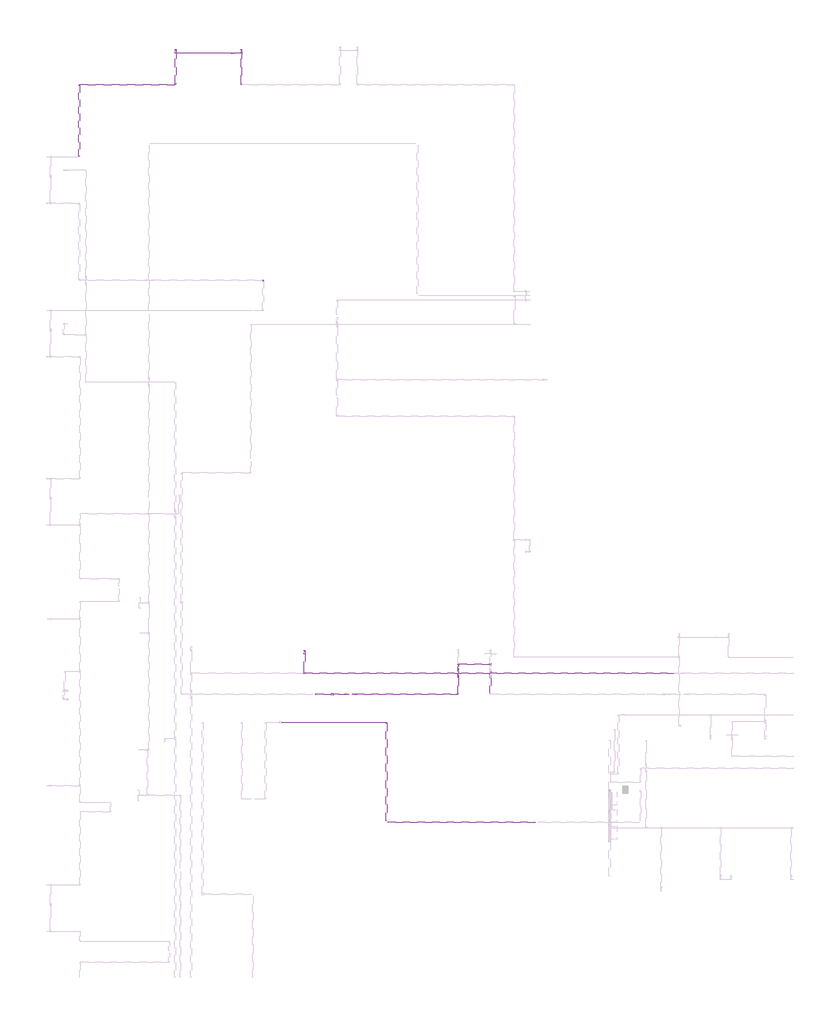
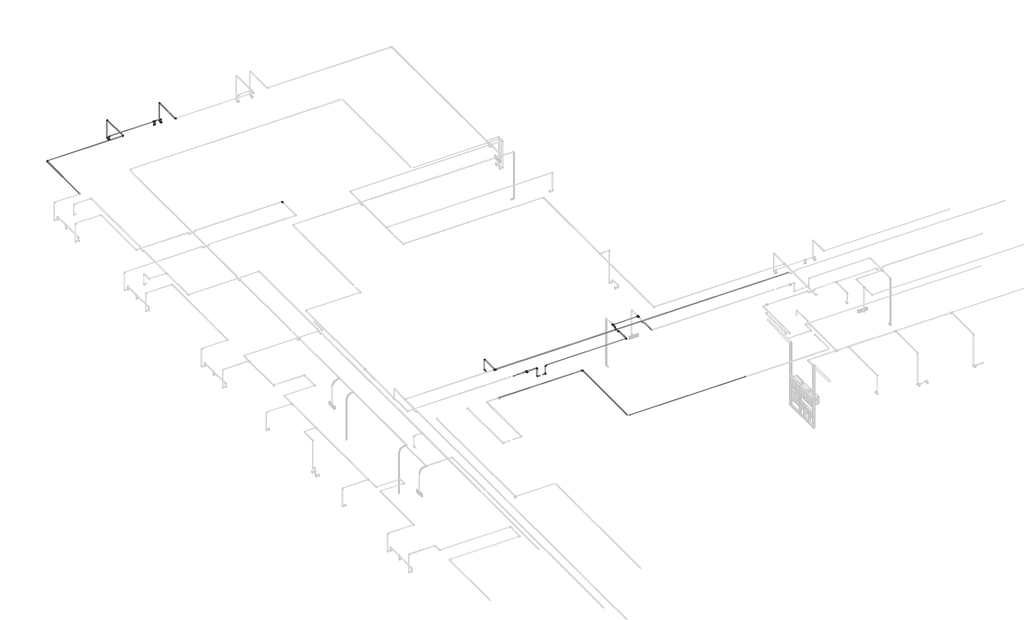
# One storey, part 18 of 40: 36 cable carrier segments, 26 cable carrier fittings, 3 electric appliances, 1 alarm.
"""IFC4 building model written with IfcOpenShell, lengths in millimetres."""

from ifc_helpers import new_model, si_unit, point, frame, frame_2d, origin, place, context, project, spatial, circle_curve, trimmed, segment, composite_curve, outline, extrude, transform, mapped, element, save
from components import alarm_a2247946, cable_carrier_fitting_69f1a801, cable_carrier_fitting_8122f9af, cable_carrier_fitting_8fd13dfc, electric_appliance_5961a143

model = new_model("IFC4")

# Units and contexts
model_context = context("Model", 3, world=origin())
ifc_project = project(units=[si_unit("LENGTHUNIT", "METRE", prefix="MILLI")], contexts=[model_context])

# Site, building, storey
site = spatial("IfcSite", under=ifc_project)
building = spatial("IfcBuilding", under=site)
storey = spatial("IfcBuildingStorey", under=building, Name="1 этаж", Elevation=0.0)

# Alarm
placement = place(None, origin())
alarm_shape = alarm_a2247946(model_context)
element("IfcAlarm", 1, ObjectType="RBZ_ИзоляторШлейфа_Рубеж_ИЗ-1_прот.R3(плоскость) : ИЗ-1 прот.R3", at=placement, inside=storey, context=model_context, shape_type="MappedRepresentation", body=[
    mapped(alarm_shape, transform((-30657.5194045, 5139.6370105, 3200.75), x_axis=(1.0, 0.0, 0.0), y_axis=(0.0, 1.0, 0.0), z_axis=(0.0, 0.0, 1.0))),
])

# Cable carrier fittings
cable_carrier_fitting_shape = cable_carrier_fitting_69f1a801(model_context)
element("IfcCableCarrierFitting", 2, ObjectType="ADSK_Поворот_Минимальный размер : Неспецифицируемый", at=placement, inside=storey, context=model_context, shape_type="MappedRepresentation", body=[
    mapped(cable_carrier_fitting_shape, transform((-29192.3240102, 4379.6370103, 3187.0078931), x_axis=(0.0, 0.9999999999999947, 1.0306994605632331e-07), y_axis=(-0.9999999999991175, 0.0, -1.3286059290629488e-06), z_axis=(-1.3286059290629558e-06, -1.0306994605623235e-07, 0.9999999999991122))),
])
element("IfcCableCarrierFitting", 3, ObjectType="ADSK_Поворот_Минимальный размер : Неспецифицируемый", at=placement, inside=storey, context=model_context, shape_type="MappedRepresentation", body=[
    mapped(cable_carrier_fitting_shape, transform((-30301.3326112, 5139.5658748, 2891.5753772), x_axis=(-1.0, 0.0, 0.0), y_axis=(0.0, 0.0, 1.0), z_axis=(0.0, 1.0, 0.0))),
])
element("IfcCableCarrierFitting", 4, ObjectType="ADSK_Поворот_Минимальный размер : Неспецифицируемый", at=placement, inside=storey, context=model_context, shape_type="MappedRepresentation", body=[
    mapped(cable_carrier_fitting_shape, transform((-30301.3326112, 5139.5658748, 3190.0), x_axis=(0.0, 0.0, 1.0), y_axis=(-0.9999999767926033, 0.00021544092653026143, 0.0), z_axis=(-0.00021544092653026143, -0.9999999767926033, 0.0))),
])
element("IfcCableCarrierFitting", 5, ObjectType="ADSK_Поворот_Минимальный размер : Неспецифицируемый", at=placement, inside=storey, context=model_context, shape_type="MappedRepresentation", body=[
    mapped(cable_carrier_fitting_shape, transform((-30013.933, 5139.5658748, 2891.5753772), x_axis=(1.0, 0.0, 0.0), y_axis=(0.0, 0.0, 1.0), z_axis=(0.0, -1.0, 0.0))),
])
element("IfcCableCarrierFitting", 6, ObjectType="ADSK_Поворот_Минимальный размер : Неспецифицируемый", at=placement, inside=storey, context=model_context, shape_type="MappedRepresentation", body=[
    mapped(cable_carrier_fitting_shape, transform((-30013.933, 5139.5658748, 3190.0), x_axis=(0.0, 0.0, 1.0), y_axis=(1.0, 0.0, 0.0), z_axis=(0.0, 1.0, 0.0))),
])
element("IfcCableCarrierFitting", 7, ObjectType="ADSK_Поворот_Минимальный размер : Неспецифицируемый", at=placement, inside=storey, context=model_context, shape_type="MappedRepresentation", body=[
    mapped(cable_carrier_fitting_shape, transform((-33122.3240021, 22488.6370105, 2650.0), x_axis=(0.0, 0.0, 1.0), y_axis=(-1.0, 0.0, 0.0), z_axis=(0.0, -1.0, 0.0))),
])
element("IfcCableCarrierFitting", 8, ObjectType="ADSK_Поворот_Минимальный размер : Неспецифицируемый", at=placement, inside=storey, context=model_context, shape_type="MappedRepresentation", body=[
    mapped(cable_carrier_fitting_shape, transform((-34902.3240021, 22488.6370105, 2650.0), x_axis=(0.0, 0.0, 1.0), y_axis=(1.0, 0.0, 0.0), z_axis=(0.0, 1.0, 0.0))),
])
element("IfcCableCarrierFitting", 9, ObjectType="ADSK_Поворот_Минимальный размер : Неспецифицируемый", at=placement, inside=storey, context=model_context, shape_type="MappedRepresentation", body=[
    mapped(cable_carrier_fitting_shape, transform((-34902.3240021, 22588.8368161, 2534.0911237), x_axis=(0.0, 1.0, 0.0), y_axis=(0.0, 0.0, 1.0), z_axis=(1.0, 0.0, 0.0))),
])
element("IfcCableCarrierFitting", 10, ObjectType="ADSK_Поворот_Минимальный размер : Неспецифицируемый", at=placement, inside=storey, context=model_context, shape_type="MappedRepresentation", body=[
    mapped(cable_carrier_fitting_shape, transform((-33122.3240021, 22588.8368161, 2534.0911237), x_axis=(0.0, 1.0, 0.0), y_axis=(0.0, 0.0, 1.0), z_axis=(1.0, 0.0, 0.0))),
])
element("IfcCableCarrierFitting", 11, ObjectType="ADSK_Поворот_Минимальный размер : Неспецифицируемый", at=placement, inside=storey, context=model_context, shape_type="MappedRepresentation", body=[
    mapped(cable_carrier_fitting_shape, transform((-37510.3240021, 21634.6370105, 3187.0), x_axis=(-1.0, 0.0, 0.0), y_axis=(0.0, -1.0, 0.0), z_axis=(0.0, 0.0, 1.0))),
])
element("IfcCableCarrierFitting", 12, ObjectType="ADSK_Поворот_Минимальный размер : Неспецифицируемый", at=placement, inside=storey, context=model_context, shape_type="MappedRepresentation", body=[
    mapped(cable_carrier_fitting_shape, transform((-34902.3240021, 21634.6370105, 3187.0), x_axis=(1.0, 0.0, 0.0), y_axis=(0.0, 1.0, 0.0), z_axis=(0.0, 0.0, 1.0))),
])
element("IfcCableCarrierFitting", 13, ObjectType="ADSK_Поворот_Минимальный размер : Неспецифицируемый", at=placement, inside=storey, context=model_context, shape_type="MappedRepresentation", body=[
    mapped(cable_carrier_fitting_shape, transform((-34902.3240021, 22588.8368161, 3187.0), x_axis=(0.0, 0.0, 1.0), y_axis=(0.0, -1.0, 0.0), z_axis=(1.0, 0.0, 0.0))),
])
element("IfcCableCarrierFitting", 14, ObjectType="ADSK_Поворот_Минимальный размер : Неспецифицируемый", at=placement, inside=storey, context=model_context, shape_type="MappedRepresentation", body=[
    mapped(cable_carrier_fitting_shape, transform((-33122.3240021, 21634.6370105, 3187.0), x_axis=(0.0, -1.0, 0.0), y_axis=(1.0, 0.0, 0.0), z_axis=(0.0, 0.0, 1.0))),
])
element("IfcCableCarrierFitting", 15, ObjectType="ADSK_Поворот_Минимальный размер : Неспецифицируемый", at=placement, inside=storey, context=model_context, shape_type="MappedRepresentation", body=[
    mapped(cable_carrier_fitting_shape, transform((-33122.3240021, 22588.8368161, 3187.0), x_axis=(0.0, 0.0, 1.0), y_axis=(0.0, -1.0, 0.0), z_axis=(1.0, 0.0, 0.0))),
])
element("IfcCableCarrierFitting", 16, ObjectType="ADSK_Поворот_Минимальный размер : Неспецифицируемый", at=placement, inside=storey, context=model_context, shape_type="MappedRepresentation", body=[
    mapped(cable_carrier_fitting_shape, transform((-31412.3240021, 6321.8368161, 2797.4861504), x_axis=(0.0, 1.0, 0.0), y_axis=(0.0, 0.0, 1.0), z_axis=(1.0, 0.0, 0.0))),
])
element("IfcCableCarrierFitting", 17, ObjectType="ADSK_Поворот_Минимальный размер : Неспецифицируемый", at=placement, inside=storey, context=model_context, shape_type="MappedRepresentation", body=[
    mapped(cable_carrier_fitting_shape, transform((-31412.3240021, 6321.8368161, 3180.0), x_axis=(0.0, 0.0, 1.0), y_axis=(0.0, -1.0, 0.0), z_axis=(1.0, 0.0, 0.0))),
])
element("IfcCableCarrierFitting", 18, ObjectType="ADSK_Поворот_Минимальный размер : Неспецифицируемый", at=placement, inside=storey, context=model_context, shape_type="MappedRepresentation", body=[
    mapped(cable_carrier_fitting_shape, transform((-27249.8240021, 5139.5658748, 3190.0), x_axis=(1.0, 0.0, 0.0), y_axis=(0.0, 1.0, 0.0), z_axis=(0.0, 0.0, 1.0))),
])
element("IfcCableCarrierFitting", 19, ObjectType="ADSK_Поворот_Минимальный размер : Неспецифицируемый", at=placement, inside=storey, context=model_context, shape_type="MappedRepresentation", body=[
    mapped(cable_carrier_fitting_shape, transform((-32530.276993, 16343.9228593, 3187.0), x_axis=(0.0, 1.0, 0.0), y_axis=(-1.0, 0.0, 0.0), z_axis=(0.0, 0.0, 1.0))),
])
cable_carrier_fitting_2_shape = cable_carrier_fitting_8122f9af(model_context)
element("IfcCableCarrierFitting", 20, ObjectType="ADSK_Поворот_Минимальный размер : Неспецифицируемый", at=placement, inside=storey, context=model_context, shape_type="MappedRepresentation", body=[
    mapped(cable_carrier_fitting_2_shape, transform((-27249.8240021, 5643.0647393, 3140.0), x_axis=(0.0, 0.7071067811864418, -0.7071067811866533), y_axis=(0.0, 0.7071067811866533, 0.7071067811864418), z_axis=(1.0, 0.0, 0.0))),
])
element("IfcCableCarrierFitting", 21, ObjectType="ADSK_Поворот_Минимальный размер : Неспецифицируемый", at=placement, inside=storey, context=model_context, shape_type="MappedRepresentation", body=[
    mapped(cable_carrier_fitting_2_shape, transform((-27249.8240021, 5776.2092818, 3140.0), x_axis=(0.0, 1.0, 0.0), y_axis=(0.0, 0.0, 1.0), z_axis=(1.0, 0.0, 0.0))),
])
element("IfcCableCarrierFitting", 22, ObjectType="ADSK_Поворот_Минимальный размер : Неспецифицируемый", at=placement, inside=storey, context=model_context, shape_type="MappedRepresentation", body=[
    mapped(cable_carrier_fitting_2_shape, transform((-27249.8240021, 5826.2092818, 3190.0), x_axis=(0.0, 0.7071067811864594, 0.7071067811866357), y_axis=(0.0, 0.7071067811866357, -0.7071067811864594), z_axis=(-1.0, 0.0, 0.0))),
])
element("IfcCableCarrierFitting", 23, ObjectType="ADSK_Поворот_Минимальный размер : Неспецифицируемый", at=placement, inside=storey, context=model_context, shape_type="MappedRepresentation", body=[
    mapped(cable_carrier_fitting_2_shape, transform((-27249.8240021, 5593.0647393, 3190.0), x_axis=(0.0, -0.7071067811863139, 0.7071067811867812), y_axis=(0.0, -0.7071067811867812, -0.7071067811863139), z_axis=(1.0, 0.0, 0.0))),
])
cable_carrier_fitting_3_shape = cable_carrier_fitting_8fd13dfc(model_context)
element("IfcCableCarrierFitting", 24, ObjectType="ADSK_Тройник : ПВХ", at=placement, inside=storey, context=model_context, shape_type="MappedRepresentation", body=[
    mapped(cable_carrier_fitting_3_shape, transform((-27249.8240021, 5954.6907669, 3190.0), x_axis=(0.0, 1.0, 0.0), y_axis=(-1.0, 0.0, 0.0), z_axis=(0.0, 0.0, 1.0))),
])
element("IfcCableCarrierFitting", 25, ObjectType="ADSK_Тройник : ПВХ", at=placement, inside=storey, context=model_context, shape_type="MappedRepresentation", body=[
    mapped(cable_carrier_fitting_3_shape, transform((-26379.8240021, 5954.6907669, 3190.0), x_axis=(0.0, -1.0, 0.0), y_axis=(1.0, 0.0, 0.0), z_axis=(0.0, 0.0, 1.0))),
])
element("IfcCableCarrierFitting", 26, ObjectType="ADSK_Тройник : ПВХ", at=placement, inside=storey, context=model_context, shape_type="MappedRepresentation", body=[
    mapped(cable_carrier_fitting_3_shape, transform((-33352.3240021, 22488.6370105, 2650.0), x_axis=(1.0, 0.0, 0.0), y_axis=(0.0, 0.0, 1.0), z_axis=(0.0, -1.0, 0.0))),
])
element("IfcCableCarrierFitting", 27, ObjectType="ADSK_Тройник : ПВХ", at=placement, inside=storey, context=model_context, shape_type="MappedRepresentation", body=[
    mapped(cable_carrier_fitting_3_shape, transform((-31412.3240021, 5709.6370105, 3180.0), x_axis=(-1.0, 0.0, 0.0), y_axis=(0.0, -1.0, 0.0), z_axis=(0.0, 0.0, 1.0))),
])

# Cable carrier segments
element("IfcCableCarrierSegment", 28, ObjectType="Гофрированная труба", at=placement, inside=storey, context=model_context, shape_type="SweptSolid", body=[
    extrude(outline(composite_curve([segment(trimmed(circle_curve(frame_2d((1674.6370105, 3187.007891)), 10.0), [point((1664.6370105, 3187.007891))], [point((1674.6370105, 3197.007891))], False, "CARTESIAN"), True, "CONTINUOUS"), segment(trimmed(circle_curve(frame_2d((1674.6370105, 3187.007891)), 10.0), [point((1674.6370105, 3197.007891))], [point((1684.6370105, 3187.007891))], False, "CARTESIAN"), True, "CONTINUOUS"), segment(trimmed(circle_curve(frame_2d((1674.6370105, 3187.007891)), 10.0), [point((1684.6370105, 3187.007891))], [point((1674.6370105, 3177.007891))], False, "CARTESIAN"), True, "CONTINUOUS"), segment(trimmed(circle_curve(frame_2d((1674.6370105, 3187.007891)), 10.0), [point((1674.6370105, 3177.007891))], [point((1664.6370105, 3187.007891))], False, "CARTESIAN"), True, "CONTINUOUS")], self_intersect=False)), frame((-29145.8240102, 0.0, 0.0), z_axis=(1.0, 0.0, 0.0), x_axis=(0.0, 1.0, 0.0)), (0.0, 0.0, 1.0), 3972.0000081),
])
element("IfcCableCarrierSegment", 29, ObjectType="Гофрированная труба", at=placement, inside=storey, context=model_context, shape_type="SweptSolid", body=[
    extrude(outline(composite_curve([segment(trimmed(circle_curve(frame_2d((3187.007891, -29192.3240102)), 10.0), [point((3187.0078777, -29202.3240102))], [point((3177.007891, -29192.3239969))], False, "CARTESIAN"), True, "CONTINUOUS"), segment(trimmed(circle_curve(frame_2d((3187.007891, -29192.3240102)), 10.0), [point((3177.007891, -29192.3239969))], [point((3187.0079043, -29182.3240102))], False, "CARTESIAN"), True, "CONTINUOUS"), segment(trimmed(circle_curve(frame_2d((3187.007891, -29192.3240102)), 10.0), [point((3187.0079043, -29182.3240102))], [point((3197.007891, -29192.3240235))], False, "CARTESIAN"), True, "CONTINUOUS"), segment(trimmed(circle_curve(frame_2d((3187.007891, -29192.3240102)), 10.0), [point((3197.007891, -29192.3240235))], [point((3187.0078777, -29202.3240102))], False, "CARTESIAN"), True, "CONTINUOUS")], self_intersect=False)), frame((0.0, 1721.1370105, 0.0), z_axis=(0.0, 1.0, 0.0), x_axis=(0.0, 0.0, 1.0)), (0.0, 0.0, 1.0), 2637.4999998),
])
element("IfcCableCarrierSegment", 30, ObjectType="Гофрированная труба", at=placement, inside=storey, context=model_context, shape_type="SweptSolid", body=[
    extrude(outline(composite_curve([segment(trimmed(circle_curve(frame_2d((0.0, -10.0)), 10.0), [point((-10.0, -10.0))], [point((0.0, 0.0))], False, "CARTESIAN"), True, "CONTINUOUS"), segment(trimmed(circle_curve(frame_2d((0.0, -10.0)), 10.0), [point((0.0, 0.0))], [point((10.0, -10.0))], False, "CARTESIAN"), True, "CONTINUOUS"), segment(trimmed(circle_curve(frame_2d((0.0, -10.0)), 10.0), [point((10.0, -10.0))], [point((0.0, -20.0))], False, "CARTESIAN"), True, "CONTINUOUS"), segment(trimmed(circle_curve(frame_2d((0.0, -10.0)), 10.0), [point((0.0, -20.0))], [point((-10.0, -10.0))], False, "CARTESIAN"), True, "CONTINUOUS")], self_intersect=False)), frame((-32036.3239888, 4379.6370103, 3177.0041146), z_axis=(0.9999999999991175, 0.0, 1.3286058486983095e-06), x_axis=(0.0, -1.0, 0.0)), (0.0, 0.0, 1.0), 2822.9999919),
])
element("IfcCableCarrierSegment", 31, ObjectType="Гофрированная труба", at=placement, inside=storey, context=model_context, shape_type="SweptSolid", body=[
    extrude(outline(composite_curve([segment(trimmed(circle_curve(frame_2d((5139.6370105, 3190.0)), 10.0), [point((5149.6370105, 3190.0))], [point((5139.6370105, 3180.0))], False, "CARTESIAN"), True, "CONTINUOUS"), segment(trimmed(circle_curve(frame_2d((5139.6370105, 3190.0)), 10.0), [point((5139.6370105, 3180.0))], [point((5129.6370105, 3190.0))], False, "CARTESIAN"), True, "CONTINUOUS"), segment(trimmed(circle_curve(frame_2d((5139.6370105, 3190.0)), 10.0), [point((5129.6370105, 3190.0))], [point((5139.6370105, 3200.0))], False, "CARTESIAN"), True, "CONTINUOUS"), segment(trimmed(circle_curve(frame_2d((5139.6370105, 3190.0)), 10.0), [point((5139.6370105, 3200.0))], [point((5149.6370105, 3190.0))], False, "CARTESIAN"), True, "CONTINUOUS")], self_intersect=False)), frame((-31110.8240021, 0.0, 0.0), z_axis=(1.0, 0.0, 0.0), x_axis=(0.0, 1.0, 0.0)), (0.0, 0.0, 1.0), 427.3045976),
])
element("IfcCableCarrierSegment", 32, ObjectType="Гофрированная труба", at=placement, inside=storey, context=model_context, shape_type="SweptSolid", body=[
    extrude(outline(composite_curve([segment(trimmed(circle_curve(frame_2d((0.0, 10.0)), 10.0), [point((-10.0, 10.0))], [point((0.0, 20.0))], False, "CARTESIAN"), True, "CONTINUOUS"), segment(trimmed(circle_curve(frame_2d((0.0, 10.0)), 10.0), [point((0.0, 20.0))], [point((9.9999999, 10.0))], False, "CARTESIAN"), True, "CONTINUOUS"), segment(trimmed(circle_curve(frame_2d((0.0, 10.0)), 10.0), [point((9.9999999, 10.0))], [point((0.0, 0.0))], False, "CARTESIAN"), True, "CONTINUOUS"), segment(trimmed(circle_curve(frame_2d((0.0, 10.0)), 10.0), [point((0.0, 0.0))], [point((-10.0, 10.0))], False, "CARTESIAN"), True, "CONTINUOUS")], self_intersect=False)), frame((-30322.3326108, 5139.570399, 3180.0), z_axis=(-0.9999999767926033, 0.0002154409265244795, 0.0), x_axis=(-0.0002154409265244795, -0.9999999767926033, 0.0)), (0.0, 0.0, 1.0), 309.1868009),
])
element("IfcCableCarrierSegment", 33, ObjectType="Гофрированная труба", at=placement, inside=storey, context=model_context, shape_type="SweptSolid", body=[
    extrude(outline(composite_curve([segment(trimmed(circle_curve(frame_2d((5139.5658748, 2891.5753772)), 10.0), [point((5149.5658748, 2891.5753772))], [point((5139.5658748, 2881.5753772))], False, "CARTESIAN"), True, "CONTINUOUS"), segment(trimmed(circle_curve(frame_2d((5139.5658748, 2891.5753772)), 10.0), [point((5139.5658748, 2881.5753772))], [point((5129.5658748, 2891.5753772))], False, "CARTESIAN"), True, "CONTINUOUS"), segment(trimmed(circle_curve(frame_2d((5139.5658748, 2891.5753772)), 10.0), [point((5129.5658748, 2891.5753772))], [point((5139.5658748, 2901.5753772))], False, "CARTESIAN"), True, "CONTINUOUS"), segment(trimmed(circle_curve(frame_2d((5139.5658748, 2891.5753772)), 10.0), [point((5139.5658748, 2901.5753772))], [point((5149.5658748, 2891.5753772))], False, "CARTESIAN"), True, "CONTINUOUS")], self_intersect=False)), frame((-30280.3326112, 0.0, 0.0), z_axis=(1.0, 0.0, 0.0), x_axis=(0.0, 1.0, 0.0)), (0.0, 0.0, 1.0), 76.1998056),
])
element("IfcCableCarrierSegment", 34, ObjectType="Гофрированная труба", at=placement, inside=storey, context=model_context, shape_type="SweptSolid", body=[
    extrude(outline(composite_curve([segment(trimmed(circle_curve(frame_2d((-30301.3326112, 5139.5658748)), 10.0), [point((-30311.3326112, 5139.5658748))], [point((-30301.3326112, 5149.5658748))], False, "CARTESIAN"), True, "CONTINUOUS"), segment(trimmed(circle_curve(frame_2d((-30301.3326112, 5139.5658748)), 10.0), [point((-30301.3326112, 5149.5658748))], [point((-30291.3326112, 5139.5658748))], False, "CARTESIAN"), True, "CONTINUOUS"), segment(trimmed(circle_curve(frame_2d((-30301.3326112, 5139.5658748)), 10.0), [point((-30291.3326112, 5139.5658748))], [point((-30301.3326112, 5129.5658748))], False, "CARTESIAN"), True, "CONTINUOUS"), segment(trimmed(circle_curve(frame_2d((-30301.3326112, 5139.5658748)), 10.0), [point((-30301.3326112, 5129.5658748))], [point((-30311.3326112, 5139.5658748))], False, "CARTESIAN"), True, "CONTINUOUS")], self_intersect=False)), frame((0.0, 0.0, 2912.5753772), z_axis=(0.0, 0.0, 1.0), x_axis=(1.0, 0.0, 0.0)), (0.0, 0.0, 1.0), 256.4246228),
])
element("IfcCableCarrierSegment", 35, ObjectType="Гофрированная труба", at=placement, inside=storey, context=model_context, shape_type="SweptSolid", body=[
    extrude(outline(composite_curve([segment(trimmed(circle_curve(frame_2d((5139.5658748, 2891.5753772)), 10.0), [point((5129.5658748, 2891.5753772))], [point((5139.5658748, 2901.5753772))], False, "CARTESIAN"), True, "CONTINUOUS"), segment(trimmed(circle_curve(frame_2d((5139.5658748, 2891.5753772)), 10.0), [point((5139.5658748, 2901.5753772))], [point((5149.5658748, 2891.5753772))], False, "CARTESIAN"), True, "CONTINUOUS"), segment(trimmed(circle_curve(frame_2d((5139.5658748, 2891.5753772)), 10.0), [point((5149.5658748, 2891.5753772))], [point((5139.5658748, 2881.5753772))], False, "CARTESIAN"), True, "CONTINUOUS"), segment(trimmed(circle_curve(frame_2d((5139.5658748, 2891.5753772)), 10.0), [point((5139.5658748, 2881.5753772))], [point((5129.5658748, 2891.5753772))], False, "CARTESIAN"), True, "CONTINUOUS")], self_intersect=False)), frame((-30111.1328056, 0.0, 0.0), z_axis=(1.0, 0.0, 0.0), x_axis=(0.0, 1.0, 0.0)), (0.0, 0.0, 1.0), 76.1998056),
])
element("IfcCableCarrierSegment", 36, ObjectType="Гофрированная труба", at=placement, inside=storey, context=model_context, shape_type="SweptSolid", body=[
    extrude(outline(composite_curve([segment(trimmed(circle_curve(frame_2d((-30013.933, 5139.5658748)), 10.0), [point((-30023.933, 5139.5658748))], [point((-30013.933, 5149.5658748))], False, "CARTESIAN"), True, "CONTINUOUS"), segment(trimmed(circle_curve(frame_2d((-30013.933, 5139.5658748)), 10.0), [point((-30013.933, 5149.5658748))], [point((-30003.933, 5139.5658748))], False, "CARTESIAN"), True, "CONTINUOUS"), segment(trimmed(circle_curve(frame_2d((-30013.933, 5139.5658748)), 10.0), [point((-30003.933, 5139.5658748))], [point((-30013.933, 5129.5658748))], False, "CARTESIAN"), True, "CONTINUOUS"), segment(trimmed(circle_curve(frame_2d((-30013.933, 5139.5658748)), 10.0), [point((-30013.933, 5129.5658748))], [point((-30023.933, 5139.5658748))], False, "CARTESIAN"), True, "CONTINUOUS")], self_intersect=False)), frame((0.0, 0.0, 2912.5753772), z_axis=(0.0, 0.0, 1.0), x_axis=(1.0, 0.0, 0.0)), (0.0, 0.0, 1.0), 256.4246228),
])
element("IfcCableCarrierSegment", 37, ObjectType="Гофрированная труба", at=placement, inside=storey, context=model_context, shape_type="SweptSolid", body=[
    extrude(outline(composite_curve([segment(trimmed(circle_curve(frame_2d((5139.5658748, 3190.0)), 10.0), [point((5129.5658748, 3190.0))], [point((5139.5658748, 3200.0))], False, "CARTESIAN"), True, "CONTINUOUS"), segment(trimmed(circle_curve(frame_2d((5139.5658748, 3190.0)), 10.0), [point((5139.5658748, 3200.0))], [point((5149.5658748, 3190.0))], False, "CARTESIAN"), True, "CONTINUOUS"), segment(trimmed(circle_curve(frame_2d((5139.5658748, 3190.0)), 10.0), [point((5149.5658748, 3190.0))], [point((5139.5658748, 3180.0))], False, "CARTESIAN"), True, "CONTINUOUS"), segment(trimmed(circle_curve(frame_2d((5139.5658748, 3190.0)), 10.0), [point((5139.5658748, 3180.0))], [point((5129.5658748, 3190.0))], False, "CARTESIAN"), True, "CONTINUOUS")], self_intersect=False)), frame((-29992.933, 0.0, 0.0), z_axis=(1.0, 0.0, 0.0), x_axis=(0.0, 1.0, 0.0)), (0.0, 0.0, 1.0), 2722.1089979),
])
element("IfcCableCarrierSegment", 38, ObjectType="Гофрированная труба", at=placement, inside=storey, context=model_context, shape_type="SweptSolid", body=[
    extrude(outline(composite_curve([segment(trimmed(circle_curve(frame_2d((5954.6907669, 3190.0)), 10.0), [point((5964.6907669, 3190.0))], [point((5954.6907669, 3180.0))], False, "CARTESIAN"), True, "CONTINUOUS"), segment(trimmed(circle_curve(frame_2d((5954.6907669, 3190.0)), 10.0), [point((5954.6907669, 3180.0))], [point((5944.6907669, 3190.0))], False, "CARTESIAN"), True, "CONTINUOUS"), segment(trimmed(circle_curve(frame_2d((5954.6907669, 3190.0)), 10.0), [point((5944.6907669, 3190.0))], [point((5954.6907669, 3200.0))], False, "CARTESIAN"), True, "CONTINUOUS"), segment(trimmed(circle_curve(frame_2d((5954.6907669, 3190.0)), 10.0), [point((5954.6907669, 3200.0))], [point((5964.6907669, 3190.0))], False, "CARTESIAN"), True, "CONTINUOUS")], self_intersect=False)), frame((-27219.8240021, 0.0, 0.0), z_axis=(1.0, 0.0, 0.0), x_axis=(0.0, 1.0, 0.0)), (0.0, 0.0, 1.0), 810.0),
])
element("IfcCableCarrierSegment", 39, ObjectType="Гофрированная труба", at=placement, inside=storey, context=model_context, shape_type="SweptSolid", body=[
    extrude(outline(composite_curve([segment(trimmed(circle_curve(frame_2d((3140.0, -27249.8240021)), 10.0), [point((3140.0, -27239.8240021))], [point((3150.0, -27249.8240021))], False, "CARTESIAN"), True, "CONTINUOUS"), segment(trimmed(circle_curve(frame_2d((3140.0, -27249.8240021)), 10.0), [point((3150.0, -27249.8240021))], [point((3140.0, -27259.8240021))], False, "CARTESIAN"), True, "CONTINUOUS"), segment(trimmed(circle_curve(frame_2d((3140.0, -27249.8240021)), 10.0), [point((3140.0, -27259.8240021))], [point((3130.0, -27249.8240021))], False, "CARTESIAN"), True, "CONTINUOUS"), segment(trimmed(circle_curve(frame_2d((3140.0, -27249.8240021)), 10.0), [point((3130.0, -27249.8240021))], [point((3140.0, -27239.8240021))], False, "CARTESIAN"), True, "CONTINUOUS")], self_intersect=False)), frame((0.0, 5652.3490105, 0.0), z_axis=(0.0, 1.0, 0.0), x_axis=(0.0, 0.0, 1.0)), (0.0, 0.0, 1.0), 114.576),
])
element("IfcCableCarrierSegment", 40, ObjectType="Гофрированная труба", at=placement, inside=storey, context=model_context, shape_type="SweptSolid", body=[
    extrude(outline(composite_curve([segment(trimmed(circle_curve(frame_2d((3140.0, -26379.8240021)), 10.0), [point((3140.0, -26369.8240021))], [point((3150.0, -26379.8240021))], False, "CARTESIAN"), True, "CONTINUOUS"), segment(trimmed(circle_curve(frame_2d((3140.0, -26379.8240021)), 10.0), [point((3150.0, -26379.8240021))], [point((3140.0, -26389.8240021))], False, "CARTESIAN"), True, "CONTINUOUS"), segment(trimmed(circle_curve(frame_2d((3140.0, -26379.8240021)), 10.0), [point((3140.0, -26389.8240021))], [point((3130.0, -26379.8240021))], False, "CARTESIAN"), True, "CONTINUOUS"), segment(trimmed(circle_curve(frame_2d((3140.0, -26379.8240021)), 10.0), [point((3130.0, -26379.8240021))], [point((3140.0, -26369.8240021))], False, "CARTESIAN"), True, "CONTINUOUS")], self_intersect=False)), frame((0.0, 5652.3490105, 0.0), z_axis=(0.0, 1.0, 0.0), x_axis=(0.0, 0.0, 1.0)), (0.0, 0.0, 1.0), 114.576),
])
element("IfcCableCarrierSegment", 41, ObjectType="Гофрированная труба", at=placement, inside=storey, context=model_context, shape_type="SweptSolid", body=[
    extrude(outline(composite_curve([segment(trimmed(circle_curve(frame_2d((-33352.3240021, 22488.6370105)), 10.0), [point((-33362.3240021, 22488.6370105))], [point((-33352.3240021, 22498.6370105))], False, "CARTESIAN"), True, "CONTINUOUS"), segment(trimmed(circle_curve(frame_2d((-33352.3240021, 22488.6370105)), 10.0), [point((-33352.3240021, 22498.6370105))], [point((-33342.3240021, 22488.6370105))], False, "CARTESIAN"), True, "CONTINUOUS"), segment(trimmed(circle_curve(frame_2d((-33352.3240021, 22488.6370105)), 10.0), [point((-33342.3240021, 22488.6370105))], [point((-33352.3240021, 22478.6370105))], False, "CARTESIAN"), True, "CONTINUOUS"), segment(trimmed(circle_curve(frame_2d((-33352.3240021, 22488.6370105)), 10.0), [point((-33352.3240021, 22478.6370105))], [point((-33362.3240021, 22488.6370105))], False, "CARTESIAN"), True, "CONTINUOUS")], self_intersect=False)), frame((0.0, 0.0, 2563.1207114), z_axis=(0.0, 0.0, 1.0), x_axis=(1.0, 0.0, 0.0)), (0.0, 0.0, 1.0), 56.8792886),
])
element("IfcCableCarrierSegment", 42, ObjectType="Гофрированная труба", at=placement, inside=storey, context=model_context, shape_type="SweptSolid", body=[
    extrude(outline(composite_curve([segment(trimmed(circle_curve(frame_2d((-34902.3240021, 22488.6370105)), 10.0), [point((-34912.3240021, 22488.6370105))], [point((-34902.3240021, 22498.6370105))], False, "CARTESIAN"), True, "CONTINUOUS"), segment(trimmed(circle_curve(frame_2d((-34902.3240021, 22488.6370105)), 10.0), [point((-34902.3240021, 22498.6370105))], [point((-34892.3240021, 22488.6370105))], False, "CARTESIAN"), True, "CONTINUOUS"), segment(trimmed(circle_curve(frame_2d((-34902.3240021, 22488.6370105)), 10.0), [point((-34892.3240021, 22488.6370105))], [point((-34902.3240021, 22478.6370105))], False, "CARTESIAN"), True, "CONTINUOUS"), segment(trimmed(circle_curve(frame_2d((-34902.3240021, 22488.6370105)), 10.0), [point((-34902.3240021, 22478.6370105))], [point((-34912.3240021, 22488.6370105))], False, "CARTESIAN"), True, "CONTINUOUS")], self_intersect=False)), frame((0.0, 0.0, 2563.1207114), z_axis=(0.0, 0.0, 1.0), x_axis=(1.0, 0.0, 0.0)), (0.0, 0.0, 1.0), 65.8792886),
])
element("IfcCableCarrierSegment", 43, ObjectType="Гофрированная труба", at=placement, inside=storey, context=model_context, shape_type="SweptSolid", body=[
    extrude(outline(composite_curve([segment(trimmed(circle_curve(frame_2d((22488.6370105, 2650.0)), 10.0), [point((22498.6370105, 2650.0))], [point((22488.6370105, 2640.0))], False, "CARTESIAN"), True, "CONTINUOUS"), segment(trimmed(circle_curve(frame_2d((22488.6370105, 2650.0)), 10.0), [point((22488.6370105, 2640.0))], [point((22478.6370105, 2650.0))], False, "CARTESIAN"), True, "CONTINUOUS"), segment(trimmed(circle_curve(frame_2d((22488.6370105, 2650.0)), 10.0), [point((22478.6370105, 2650.0))], [point((22488.6370105, 2660.0))], False, "CARTESIAN"), True, "CONTINUOUS"), segment(trimmed(circle_curve(frame_2d((22488.6370105, 2650.0)), 10.0), [point((22488.6370105, 2660.0))], [point((22498.6370105, 2650.0))], False, "CARTESIAN"), True, "CONTINUOUS")], self_intersect=False)), frame((-34881.3240021, 0.0, 0.0), z_axis=(1.0, 0.0, 0.0), x_axis=(0.0, 1.0, 0.0)), (0.0, 0.0, 1.0), 1499.0),
])
element("IfcCableCarrierSegment", 44, ObjectType="Гофрированная труба", at=placement, inside=storey, context=model_context, shape_type="SweptSolid", body=[
    extrude(outline(composite_curve([segment(trimmed(circle_curve(frame_2d((-33122.3240021, 22488.6370105)), 10.0), [point((-33132.3240021, 22488.6370105))], [point((-33122.3240021, 22498.6370105))], False, "CARTESIAN"), True, "CONTINUOUS"), segment(trimmed(circle_curve(frame_2d((-33122.3240021, 22488.6370105)), 10.0), [point((-33122.3240021, 22498.6370105))], [point((-33112.3240021, 22488.6370105))], False, "CARTESIAN"), True, "CONTINUOUS"), segment(trimmed(circle_curve(frame_2d((-33122.3240021, 22488.6370105)), 10.0), [point((-33112.3240021, 22488.6370105))], [point((-33122.3240021, 22478.6370105))], False, "CARTESIAN"), True, "CONTINUOUS"), segment(trimmed(circle_curve(frame_2d((-33122.3240021, 22488.6370105)), 10.0), [point((-33122.3240021, 22478.6370105))], [point((-33132.3240021, 22488.6370105))], False, "CARTESIAN"), True, "CONTINUOUS")], self_intersect=False)), frame((0.0, 0.0, 2563.1207114), z_axis=(0.0, 0.0, 1.0), x_axis=(1.0, 0.0, 0.0)), (0.0, 0.0, 1.0), 65.8792886),
])
element("IfcCableCarrierSegment", 45, ObjectType="Гофрированная труба", at=placement, inside=storey, context=model_context, shape_type="SweptSolid", body=[
    extrude(outline(composite_curve([segment(trimmed(circle_curve(frame_2d((22488.6370105, 2650.0)), 10.0), [point((22498.6370105, 2650.0))], [point((22488.6370105, 2640.0))], False, "CARTESIAN"), True, "CONTINUOUS"), segment(trimmed(circle_curve(frame_2d((22488.6370105, 2650.0)), 10.0), [point((22488.6370105, 2640.0))], [point((22478.6370105, 2650.0))], False, "CARTESIAN"), True, "CONTINUOUS"), segment(trimmed(circle_curve(frame_2d((22488.6370105, 2650.0)), 10.0), [point((22478.6370105, 2650.0))], [point((22488.6370105, 2660.0))], False, "CARTESIAN"), True, "CONTINUOUS"), segment(trimmed(circle_curve(frame_2d((22488.6370105, 2650.0)), 10.0), [point((22488.6370105, 2660.0))], [point((22498.6370105, 2650.0))], False, "CARTESIAN"), True, "CONTINUOUS")], self_intersect=False)), frame((-33322.3240021, 0.0, 0.0), z_axis=(1.0, 0.0, 0.0), x_axis=(0.0, 1.0, 0.0)), (0.0, 0.0, 1.0), 179.0),
])
element("IfcCableCarrierSegment", 46, ObjectType="Гофрированная труба", at=placement, inside=storey, context=model_context, shape_type="SweptSolid", body=[
    extrude(outline(composite_curve([segment(trimmed(circle_curve(frame_2d((3187.0, -34902.3240021)), 10.0), [point((3187.0, -34892.3240021))], [point((3197.0, -34902.3240021))], False, "CARTESIAN"), True, "CONTINUOUS"), segment(trimmed(circle_curve(frame_2d((3187.0, -34902.3240021)), 10.0), [point((3197.0, -34902.3240021))], [point((3187.0, -34912.3240021))], False, "CARTESIAN"), True, "CONTINUOUS"), segment(trimmed(circle_curve(frame_2d((3187.0, -34902.3240021)), 10.0), [point((3187.0, -34912.3240021))], [point((3177.0, -34902.3240021))], False, "CARTESIAN"), True, "CONTINUOUS"), segment(trimmed(circle_curve(frame_2d((3187.0, -34902.3240021)), 10.0), [point((3177.0, -34902.3240021))], [point((3187.0, -34892.3240021))], False, "CARTESIAN"), True, "CONTINUOUS")], self_intersect=False)), frame((0.0, 21655.6370105, 0.0), z_axis=(0.0, 1.0, 0.0), x_axis=(0.0, 0.0, 1.0)), (0.0, 0.0, 1.0), 912.1998056),
])
element("IfcCableCarrierSegment", 47, ObjectType="Гофрированная труба", at=placement, inside=storey, context=model_context, shape_type="SweptSolid", body=[
    extrude(outline(composite_curve([segment(trimmed(circle_curve(frame_2d((2534.0911237, -34902.3240021)), 10.0), [point((2534.0911237, -34892.3240021))], [point((2544.0911237, -34902.3240021))], False, "CARTESIAN"), True, "CONTINUOUS"), segment(trimmed(circle_curve(frame_2d((2534.0911237, -34902.3240021)), 10.0), [point((2544.0911237, -34902.3240021))], [point((2534.0911237, -34912.3240021))], False, "CARTESIAN"), True, "CONTINUOUS"), segment(trimmed(circle_curve(frame_2d((2534.0911237, -34902.3240021)), 10.0), [point((2534.0911237, -34912.3240021))], [point((2524.0911237, -34902.3240021))], False, "CARTESIAN"), True, "CONTINUOUS"), segment(trimmed(circle_curve(frame_2d((2534.0911237, -34902.3240021)), 10.0), [point((2524.0911237, -34902.3240021))], [point((2534.0911237, -34892.3240021))], False, "CARTESIAN"), True, "CONTINUOUS")], self_intersect=False)), frame((0.0, 22491.6370105, 0.0), z_axis=(0.0, 1.0, 0.0), x_axis=(0.0, 0.0, 1.0)), (0.0, 0.0, 1.0), 76.1998056),
])
element("IfcCableCarrierSegment", 48, ObjectType="Гофрированная труба", at=placement, inside=storey, context=model_context, shape_type="SweptSolid", body=[
    extrude(outline(composite_curve([segment(trimmed(circle_curve(frame_2d((-34902.3240021, 22588.8368161)), 10.0), [point((-34912.3240021, 22588.8368161))], [point((-34902.3240021, 22598.8368161))], False, "CARTESIAN"), True, "CONTINUOUS"), segment(trimmed(circle_curve(frame_2d((-34902.3240021, 22588.8368161)), 10.0), [point((-34902.3240021, 22598.8368161))], [point((-34892.3240021, 22588.8368161))], False, "CARTESIAN"), True, "CONTINUOUS"), segment(trimmed(circle_curve(frame_2d((-34902.3240021, 22588.8368161)), 10.0), [point((-34892.3240021, 22588.8368161))], [point((-34902.3240021, 22578.8368161))], False, "CARTESIAN"), True, "CONTINUOUS"), segment(trimmed(circle_curve(frame_2d((-34902.3240021, 22588.8368161)), 10.0), [point((-34902.3240021, 22578.8368161))], [point((-34912.3240021, 22588.8368161))], False, "CARTESIAN"), True, "CONTINUOUS")], self_intersect=False)), frame((0.0, 0.0, 2555.0911237), z_axis=(0.0, 0.0, 1.0), x_axis=(1.0, 0.0, 0.0)), (0.0, 0.0, 1.0), 610.9088763),
])
element("IfcCableCarrierSegment", 49, ObjectType="Гофрированная труба", at=placement, inside=storey, context=model_context, shape_type="SweptSolid", body=[
    extrude(outline(composite_curve([segment(trimmed(circle_curve(frame_2d((3187.0, -33122.3240021)), 10.0), [point((3187.0, -33112.3240021))], [point((3197.0, -33122.3240021))], False, "CARTESIAN"), True, "CONTINUOUS"), segment(trimmed(circle_curve(frame_2d((3187.0, -33122.3240021)), 10.0), [point((3197.0, -33122.3240021))], [point((3187.0, -33132.3240021))], False, "CARTESIAN"), True, "CONTINUOUS"), segment(trimmed(circle_curve(frame_2d((3187.0, -33122.3240021)), 10.0), [point((3187.0, -33132.3240021))], [point((3177.0, -33122.3240021))], False, "CARTESIAN"), True, "CONTINUOUS"), segment(trimmed(circle_curve(frame_2d((3187.0, -33122.3240021)), 10.0), [point((3177.0, -33122.3240021))], [point((3187.0, -33112.3240021))], False, "CARTESIAN"), True, "CONTINUOUS")], self_intersect=False)), frame((0.0, 21655.6370105, 0.0), z_axis=(0.0, 1.0, 0.0), x_axis=(0.0, 0.0, 1.0)), (0.0, 0.0, 1.0), 912.1998056),
])
element("IfcCableCarrierSegment", 50, ObjectType="Гофрированная труба", at=placement, inside=storey, context=model_context, shape_type="SweptSolid", body=[
    extrude(outline(composite_curve([segment(trimmed(circle_curve(frame_2d((2534.0911237, -33122.3240021)), 10.0), [point((2534.0911237, -33112.3240021))], [point((2544.0911237, -33122.3240021))], False, "CARTESIAN"), True, "CONTINUOUS"), segment(trimmed(circle_curve(frame_2d((2534.0911237, -33122.3240021)), 10.0), [point((2544.0911237, -33122.3240021))], [point((2534.0911237, -33132.3240021))], False, "CARTESIAN"), True, "CONTINUOUS"), segment(trimmed(circle_curve(frame_2d((2534.0911237, -33122.3240021)), 10.0), [point((2534.0911237, -33132.3240021))], [point((2524.0911237, -33122.3240021))], False, "CARTESIAN"), True, "CONTINUOUS"), segment(trimmed(circle_curve(frame_2d((2534.0911237, -33122.3240021)), 10.0), [point((2524.0911237, -33122.3240021))], [point((2534.0911237, -33112.3240021))], False, "CARTESIAN"), True, "CONTINUOUS")], self_intersect=False)), frame((0.0, 22491.6370105, 0.0), z_axis=(0.0, 1.0, 0.0), x_axis=(0.0, 0.0, 1.0)), (0.0, 0.0, 1.0), 76.1998056),
])
element("IfcCableCarrierSegment", 51, ObjectType="Гофрированная труба", at=placement, inside=storey, context=model_context, shape_type="SweptSolid", body=[
    extrude(outline(composite_curve([segment(trimmed(circle_curve(frame_2d((-33122.3240021, 22588.8368161)), 10.0), [point((-33132.3240021, 22588.8368161))], [point((-33122.3240021, 22598.8368161))], False, "CARTESIAN"), True, "CONTINUOUS"), segment(trimmed(circle_curve(frame_2d((-33122.3240021, 22588.8368161)), 10.0), [point((-33122.3240021, 22598.8368161))], [point((-33112.3240021, 22588.8368161))], False, "CARTESIAN"), True, "CONTINUOUS"), segment(trimmed(circle_curve(frame_2d((-33122.3240021, 22588.8368161)), 10.0), [point((-33112.3240021, 22588.8368161))], [point((-33122.3240021, 22578.8368161))], False, "CARTESIAN"), True, "CONTINUOUS"), segment(trimmed(circle_curve(frame_2d((-33122.3240021, 22588.8368161)), 10.0), [point((-33122.3240021, 22578.8368161))], [point((-33132.3240021, 22588.8368161))], False, "CARTESIAN"), True, "CONTINUOUS")], self_intersect=False)), frame((0.0, 0.0, 2555.0911237), z_axis=(0.0, 0.0, 1.0), x_axis=(1.0, 0.0, 0.0)), (0.0, 0.0, 1.0), 610.9088763),
])
element("IfcCableCarrierSegment", 52, ObjectType="Гофрированная труба", at=placement, inside=storey, context=model_context, shape_type="SweptSolid", body=[
    extrude(outline(composite_curve([segment(trimmed(circle_curve(frame_2d((3187.0, -37510.3240021)), 10.0), [point((3187.0, -37500.3240021))], [point((3197.0, -37510.3240021))], False, "CARTESIAN"), True, "CONTINUOUS"), segment(trimmed(circle_curve(frame_2d((3187.0, -37510.3240021)), 10.0), [point((3197.0, -37510.3240021))], [point((3187.0, -37520.3240021))], False, "CARTESIAN"), True, "CONTINUOUS"), segment(trimmed(circle_curve(frame_2d((3187.0, -37510.3240021)), 10.0), [point((3187.0, -37520.3240021))], [point((3177.0, -37510.3240021))], False, "CARTESIAN"), True, "CONTINUOUS"), segment(trimmed(circle_curve(frame_2d((3187.0, -37510.3240021)), 10.0), [point((3177.0, -37510.3240021))], [point((3187.0, -37500.3240021))], False, "CARTESIAN"), True, "CONTINUOUS")], self_intersect=False)), frame((0.0, 19699.6370105, 0.0), z_axis=(0.0, 1.0, 0.0), x_axis=(0.0, 0.0, 1.0)), (0.0, 0.0, 1.0), 1914.0),
])
element("IfcCableCarrierSegment", 53, ObjectType="Гофрированная труба", at=placement, inside=storey, context=model_context, shape_type="SweptSolid", body=[
    extrude(outline(composite_curve([segment(trimmed(circle_curve(frame_2d((21634.6370105, 3187.0)), 10.0), [point((21624.6370105, 3187.0))], [point((21634.6370105, 3197.0))], False, "CARTESIAN"), True, "CONTINUOUS"), segment(trimmed(circle_curve(frame_2d((21634.6370105, 3187.0)), 10.0), [point((21634.6370105, 3197.0))], [point((21644.6370105, 3187.0))], False, "CARTESIAN"), True, "CONTINUOUS"), segment(trimmed(circle_curve(frame_2d((21634.6370105, 3187.0)), 10.0), [point((21644.6370105, 3187.0))], [point((21634.6370105, 3177.0))], False, "CARTESIAN"), True, "CONTINUOUS"), segment(trimmed(circle_curve(frame_2d((21634.6370105, 3187.0)), 10.0), [point((21634.6370105, 3177.0))], [point((21624.6370105, 3187.0))], False, "CARTESIAN"), True, "CONTINUOUS")], self_intersect=False)), frame((-37489.3240021, 0.0, 0.0), z_axis=(1.0, 0.0, 0.0), x_axis=(0.0, 1.0, 0.0)), (0.0, 0.0, 1.0), 2566.0),
])
element("IfcCableCarrierSegment", 54, ObjectType="Гофрированная труба", at=placement, inside=storey, context=model_context, shape_type="SweptSolid", body=[
    extrude(outline(composite_curve([segment(trimmed(circle_curve(frame_2d((3180.0, -31412.3240021)), 10.0), [point((3180.0, -31422.3240021))], [point((3170.0, -31412.3240021))], False, "CARTESIAN"), True, "CONTINUOUS"), segment(trimmed(circle_curve(frame_2d((3180.0, -31412.3240021)), 10.0), [point((3170.0, -31412.3240021))], [point((3180.0, -31402.3240021))], False, "CARTESIAN"), True, "CONTINUOUS"), segment(trimmed(circle_curve(frame_2d((3180.0, -31412.3240021)), 10.0), [point((3180.0, -31402.3240021))], [point((3190.0, -31412.3240021))], False, "CARTESIAN"), True, "CONTINUOUS"), segment(trimmed(circle_curve(frame_2d((3180.0, -31412.3240021)), 10.0), [point((3190.0, -31412.3240021))], [point((3180.0, -31422.3240021))], False, "CARTESIAN"), True, "CONTINUOUS")], self_intersect=False)), frame((0.0, 5739.6370105, 0.0), z_axis=(0.0, 1.0, 0.0), x_axis=(0.0, 0.0, 1.0)), (0.0, 0.0, 1.0), 561.1998056),
])
element("IfcCableCarrierSegment", 55, ObjectType="Гофрированная труба", at=placement, inside=storey, context=model_context, shape_type="SweptSolid", body=[
    extrude(outline(composite_curve([segment(trimmed(circle_curve(frame_2d((2797.4861504, -31412.3240021)), 10.0), [point((2797.4861504, -31402.3240021))], [point((2807.4861504, -31412.3240021))], False, "CARTESIAN"), True, "CONTINUOUS"), segment(trimmed(circle_curve(frame_2d((2797.4861504, -31412.3240021)), 10.0), [point((2807.4861504, -31412.3240021))], [point((2797.4861504, -31422.3240021))], False, "CARTESIAN"), True, "CONTINUOUS"), segment(trimmed(circle_curve(frame_2d((2797.4861504, -31412.3240021)), 10.0), [point((2797.4861504, -31422.3240021))], [point((2787.4861504, -31412.3240021))], False, "CARTESIAN"), True, "CONTINUOUS"), segment(trimmed(circle_curve(frame_2d((2797.4861504, -31412.3240021)), 10.0), [point((2787.4861504, -31412.3240021))], [point((2797.4861504, -31402.3240021))], False, "CARTESIAN"), True, "CONTINUOUS")], self_intersect=False)), frame((0.0, 6224.6370105, 0.0), z_axis=(0.0, 1.0, 0.0), x_axis=(0.0, 0.0, 1.0)), (0.0, 0.0, 1.0), 76.1998056),
])
element("IfcCableCarrierSegment", 56, ObjectType="Гофрированная труба", at=placement, inside=storey, context=model_context, shape_type="SweptSolid", body=[
    extrude(outline(composite_curve([segment(trimmed(circle_curve(frame_2d((-31412.3240021, 6321.8368161)), 10.0), [point((-31422.3240021, 6321.8368161))], [point((-31412.3240021, 6331.8368161))], False, "CARTESIAN"), True, "CONTINUOUS"), segment(trimmed(circle_curve(frame_2d((-31412.3240021, 6321.8368161)), 10.0), [point((-31412.3240021, 6331.8368161))], [point((-31402.3240021, 6321.8368161))], False, "CARTESIAN"), True, "CONTINUOUS"), segment(trimmed(circle_curve(frame_2d((-31412.3240021, 6321.8368161)), 10.0), [point((-31402.3240021, 6321.8368161))], [point((-31412.3240021, 6311.8368161))], False, "CARTESIAN"), True, "CONTINUOUS"), segment(trimmed(circle_curve(frame_2d((-31412.3240021, 6321.8368161)), 10.0), [point((-31412.3240021, 6311.8368161))], [point((-31422.3240021, 6321.8368161))], False, "CARTESIAN"), True, "CONTINUOUS")], self_intersect=False)), frame((0.0, 0.0, 2818.4861504), z_axis=(0.0, 0.0, 1.0), x_axis=(1.0, 0.0, 0.0)), (0.0, 0.0, 1.0), 340.5138496),
])
element("IfcCableCarrierSegment", 57, ObjectType="Гофрированная труба", at=placement, inside=storey, context=model_context, shape_type="SweptSolid", body=[
    extrude(outline(composite_curve([segment(trimmed(circle_curve(frame_2d((5709.6370105, 3180.0)), 10.0), [point((5699.6370105, 3180.0))], [point((5709.6370105, 3190.0))], False, "CARTESIAN"), True, "CONTINUOUS"), segment(trimmed(circle_curve(frame_2d((5709.6370105, 3180.0)), 10.0), [point((5709.6370105, 3190.0))], [point((5719.6370105, 3180.0))], False, "CARTESIAN"), True, "CONTINUOUS"), segment(trimmed(circle_curve(frame_2d((5709.6370105, 3180.0)), 10.0), [point((5719.6370105, 3180.0))], [point((5709.6370105, 3170.0))], False, "CARTESIAN"), True, "CONTINUOUS"), segment(trimmed(circle_curve(frame_2d((5709.6370105, 3180.0)), 10.0), [point((5709.6370105, 3170.0))], [point((5699.6370105, 3180.0))], False, "CARTESIAN"), True, "CONTINUOUS")], self_intersect=False)), frame((-31382.3240021, 0.0, 0.0), z_axis=(1.0, 0.0, 0.0), x_axis=(0.0, 1.0, 0.0)), (0.0, 0.0, 1.0), 9984.1434575),
])
element("IfcCableCarrierSegment", 58, ObjectType="Гофрированная труба", at=placement, inside=storey, context=model_context, shape_type="SweptSolid", body=[
    extrude(outline(composite_curve([segment(trimmed(circle_curve(frame_2d((3190.0, -26379.8240021)), 10.0), [point((3190.0, -26389.8240021))], [point((3180.0, -26379.8240021))], False, "CARTESIAN"), True, "CONTINUOUS"), segment(trimmed(circle_curve(frame_2d((3190.0, -26379.8240021)), 10.0), [point((3180.0, -26379.8240021))], [point((3190.0, -26369.8240021))], False, "CARTESIAN"), True, "CONTINUOUS"), segment(trimmed(circle_curve(frame_2d((3190.0, -26379.8240021)), 10.0), [point((3190.0, -26369.8240021))], [point((3200.0, -26379.8240021))], False, "CARTESIAN"), True, "CONTINUOUS"), segment(trimmed(circle_curve(frame_2d((3190.0, -26379.8240021)), 10.0), [point((3200.0, -26379.8240021))], [point((3190.0, -26389.8240021))], False, "CARTESIAN"), True, "CONTINUOUS")], self_intersect=False)), frame((0.0, 5160.5658748, 0.0), z_axis=(0.0, 1.0, 0.0), x_axis=(0.0, 0.0, 1.0)), (0.0, 0.0, 1.0), 423.2145933),
])
element("IfcCableCarrierSegment", 59, ObjectType="Гофрированная труба", at=placement, inside=storey, context=model_context, shape_type="SweptSolid", body=[
    extrude(outline(composite_curve([segment(trimmed(circle_curve(frame_2d((0.0, -10.0)), 10.0), [point((10.0, -10.0))], [point((0.0, -20.0))], False, "CARTESIAN"), True, "CONTINUOUS"), segment(trimmed(circle_curve(frame_2d((0.0, -10.0)), 10.0), [point((0.0, -20.0))], [point((-10.0, -10.0))], False, "CARTESIAN"), True, "CONTINUOUS"), segment(trimmed(circle_curve(frame_2d((0.0, -10.0)), 10.0), [point((-10.0, -10.0))], [point((0.0, 0.0))], False, "CARTESIAN"), True, "CONTINUOUS"), segment(trimmed(circle_curve(frame_2d((0.0, -10.0)), 10.0), [point((0.0, 0.0))], [point((10.0, -10.0))], False, "CARTESIAN"), True, "CONTINUOUS")], self_intersect=False)), frame((-26379.8240021, 5643.5708359, 3153.636039), z_axis=(0.0, -0.7071067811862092, 0.707106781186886), x_axis=(1.0, 0.0, 0.0)), (0.0, 0.0, 1.0), 52.1421356),
])
element("IfcCableCarrierSegment", 60, ObjectType="Гофрированная труба", at=placement, inside=storey, context=model_context, shape_type="SweptSolid", body=[
    extrude(outline(composite_curve([segment(trimmed(circle_curve(frame_2d((3190.0, -27249.8240021)), 10.0), [point((3190.0, -27259.8240021))], [point((3180.0, -27249.8240021))], False, "CARTESIAN"), True, "CONTINUOUS"), segment(trimmed(circle_curve(frame_2d((3190.0, -27249.8240021)), 10.0), [point((3180.0, -27249.8240021))], [point((3190.0, -27239.8240021))], False, "CARTESIAN"), True, "CONTINUOUS"), segment(trimmed(circle_curve(frame_2d((3190.0, -27249.8240021)), 10.0), [point((3190.0, -27239.8240021))], [point((3200.0, -27249.8240021))], False, "CARTESIAN"), True, "CONTINUOUS"), segment(trimmed(circle_curve(frame_2d((3190.0, -27249.8240021)), 10.0), [point((3200.0, -27249.8240021))], [point((3190.0, -27259.8240021))], False, "CARTESIAN"), True, "CONTINUOUS")], self_intersect=False)), frame((0.0, 5160.5658748, 0.0), z_axis=(0.0, 1.0, 0.0), x_axis=(0.0, 0.0, 1.0)), (0.0, 0.0, 1.0), 423.2145933),
])
element("IfcCableCarrierSegment", 61, ObjectType="Гофрированная труба", at=placement, inside=storey, context=model_context, shape_type="SweptSolid", body=[
    extrude(outline(composite_curve([segment(trimmed(circle_curve(frame_2d((0.0, -10.0)), 10.0), [point((10.0, -10.0))], [point((0.0, -20.0))], False, "CARTESIAN"), True, "CONTINUOUS"), segment(trimmed(circle_curve(frame_2d((0.0, -10.0)), 10.0), [point((0.0, -20.0))], [point((-10.0, -10.0))], False, "CARTESIAN"), True, "CONTINUOUS"), segment(trimmed(circle_curve(frame_2d((0.0, -10.0)), 10.0), [point((-10.0, -10.0))], [point((0.0, 0.0))], False, "CARTESIAN"), True, "CONTINUOUS"), segment(trimmed(circle_curve(frame_2d((0.0, -10.0)), 10.0), [point((0.0, 0.0))], [point((10.0, -10.0))], False, "CARTESIAN"), True, "CONTINUOUS")], self_intersect=False)), frame((-27249.8240021, 5643.5708359, 3153.636039), z_axis=(0.0, -0.7071067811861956, 0.7071067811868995), x_axis=(1.0, 0.0, 0.0)), (0.0, 0.0, 1.0), 52.1421356),
])
element("IfcCableCarrierSegment", 62, ObjectType="Гофрированная труба", at=placement, inside=storey, context=model_context, shape_type="SweptSolid", body=[
    extrude(outline(composite_curve([segment(trimmed(circle_curve(frame_2d((3190.0, -27249.8240021)), 10.0), [point((3190.0, -27239.8240021))], [point((3200.0, -27249.8240021))], False, "CARTESIAN"), True, "CONTINUOUS"), segment(trimmed(circle_curve(frame_2d((3190.0, -27249.8240021)), 10.0), [point((3200.0, -27249.8240021))], [point((3190.0, -27259.8240021))], False, "CARTESIAN"), True, "CONTINUOUS"), segment(trimmed(circle_curve(frame_2d((3190.0, -27249.8240021)), 10.0), [point((3190.0, -27259.8240021))], [point((3180.0, -27249.8240021))], False, "CARTESIAN"), True, "CONTINUOUS"), segment(trimmed(circle_curve(frame_2d((3190.0, -27249.8240021)), 10.0), [point((3180.0, -27249.8240021))], [point((3190.0, -27239.8240021))], False, "CARTESIAN"), True, "CONTINUOUS")], self_intersect=False)), frame((0.0, 5835.493553, 0.0), z_axis=(0.0, 1.0, 0.0), x_axis=(0.0, 0.0, 1.0)), (0.0, 0.0, 1.0), 89.1972139),
])
element("IfcCableCarrierSegment", 63, ObjectType="Гофрированная труба", at=placement, inside=storey, context=model_context, shape_type="SweptSolid", body=[
    extrude(outline(composite_curve([segment(trimmed(circle_curve(frame_2d((0.0, 10.0)), 10.0), [point((10.0, 10.0))], [point((0.0, 0.0))], False, "CARTESIAN"), True, "CONTINUOUS"), segment(trimmed(circle_curve(frame_2d((0.0, 10.0)), 10.0), [point((0.0, 0.0))], [point((-10.0, 10.0))], False, "CARTESIAN"), True, "CONTINUOUS"), segment(trimmed(circle_curve(frame_2d((0.0, 10.0)), 10.0), [point((-10.0, 10.0))], [point((0.0, 20.0))], False, "CARTESIAN"), True, "CONTINUOUS"), segment(trimmed(circle_curve(frame_2d((0.0, 10.0)), 10.0), [point((0.0, 20.0))], [point((10.0, 10.0))], False, "CARTESIAN"), True, "CONTINUOUS")], self_intersect=False)), frame((-27249.8240021, 5775.7031851, 3153.636039), z_axis=(0.0, 0.707106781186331, 0.7071067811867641), x_axis=(1.0, 0.0, 0.0)), (0.0, 0.0, 1.0), 52.1421356),
])

# Electric appliances
electric_appliance_shape = electric_appliance_5961a143(model_context)
element("IfcElectricAppliance", 64, ObjectType="RBZ_Извещатель_ОхранныйМагнитоуправляемый _Рубеж_ИО 10220-2(грань) : ИО 10220-2", at=placement, inside=storey, context=model_context, shape_type="MappedRepresentation", body=[
    mapped(electric_appliance_shape, transform((-34902.3240021, 22491.6370105, 2546.0), x_axis=(-1.0, 0.0, 0.0), y_axis=(0.0, 0.0, -1.0), z_axis=(0.0, -1.0, 0.0))),
])
element("IfcElectricAppliance", 65, ObjectType="RBZ_Извещатель_ОхранныйМагнитоуправляемый _Рубеж_ИО 10220-2(грань) : ИО 10220-2", at=placement, inside=storey, context=model_context, shape_type="MappedRepresentation", body=[
    mapped(electric_appliance_shape, transform((-33122.3240021, 22491.6370105, 2546.0), x_axis=(-1.0, 0.0, 0.0), y_axis=(0.0, 0.0, -1.0), z_axis=(0.0, -1.0, 0.0))),
])
element("IfcElectricAppliance", 66, ObjectType="RBZ_Извещатель_ОхранныйМагнитоуправляемый _Рубеж_ИО 10220-2(грань) : ИО 10220-2", at=placement, inside=storey, context=model_context, shape_type="MappedRepresentation", body=[
    mapped(electric_appliance_shape, transform((-33352.3240021, 22491.6370105, 2546.0), x_axis=(-1.0, 0.0, 0.0), y_axis=(0.0, 0.0, -1.0), z_axis=(0.0, -1.0, 0.0))),
])

save(model, "model.ifc")
